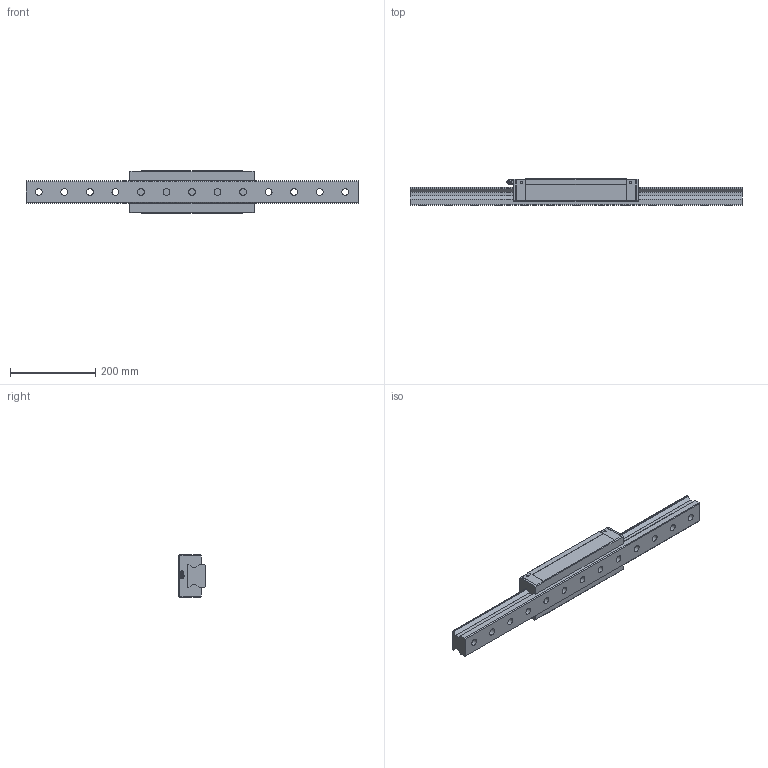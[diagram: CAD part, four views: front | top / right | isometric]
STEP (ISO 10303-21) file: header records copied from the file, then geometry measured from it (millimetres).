
FILE_DESCRIPTION(/* description */ ('STEP AP203'),/* implementation_level */ '2;1');
FILE_NAME(/* name */ 'SRN55SLR1SS-780L_G30_0_B-PT18_244_0_0_0_1',/* time_stamp */ '2024-05-23T10:58:33+02:00',/* author */ ('License CC BY-ND 4.0'),/* organization */ ('CADENAS'),/* preprocessor_version */ 'ST-DEVELOPER v19.3',/* originating_system */ 'PARTsolutions',/* authorisation */ ' ');
FILE_SCHEMA (('CONFIG_CONTROL_DESIGN'));
Length unit declared in the file: millimetre
Products named in the file (4): SRN55SLR1SS-780L_G30_0_B-PT18_244_0_0_0_1; SRN55SLR78030 Track; SRN55SLRSSB-PT1/81 Slide35-65; B-PT1/8-SRN_grease_nipple_joint
Assembly tree (3 placements, depth 2):
  SRN55SLR1SS-780L_G30_0_B-PT18_244_0_0_0_1
    SRN55SLR78030 Track
    SRN55SLRSSB-PT1/81 Slide35-65
    B-PT1/8-SRN_grease_nipple_joint
Bounding box: 780 x 63 x 100 mm (x, y, z)
Volume: 2483728 mm3; surface area: 313998 mm2
Topology: 3 solids, 3 shells, 215 faces, 541 edges, 351 vertices
Faces by surface type: plane 128, cylinder 52, cone 30, torus 3, sphere 2
Full cylindrical faces by diameter (mm): 5.2 x4, 9.6 x1, 10.106 x9, 16 x13, 23 x13
Entity records: 6130 total; most frequent: CARTESIAN_POINT 1139, DIRECTION 992, ORIENTED_EDGE 896, EDGE_CURVE 448, AXIS2_PLACEMENT_3D 352, FACE_BOUND 346, VERTEX_POINT 344, EDGE_LOOP 335
